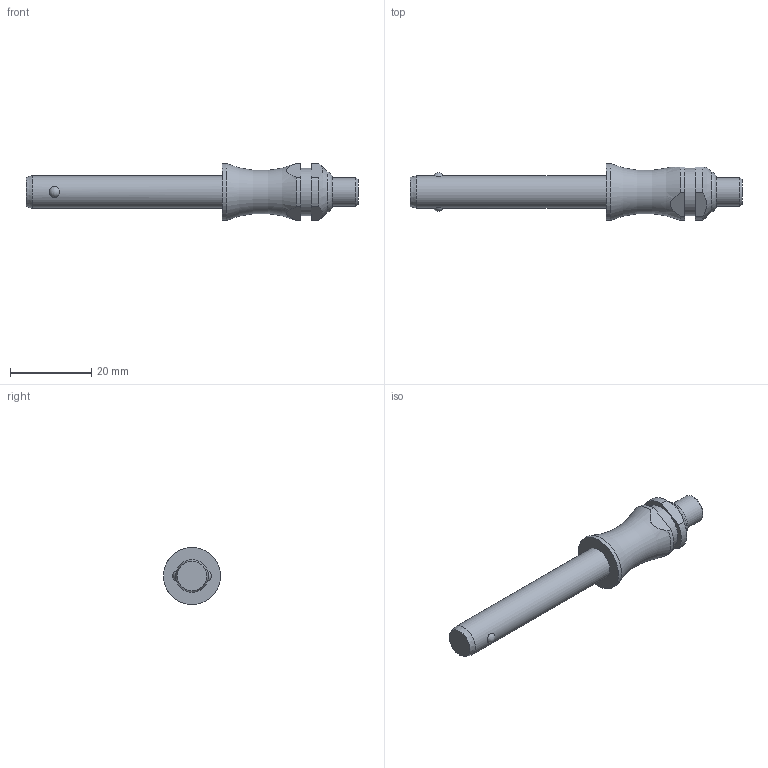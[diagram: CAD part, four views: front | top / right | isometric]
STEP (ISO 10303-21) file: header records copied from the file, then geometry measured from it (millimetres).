
FILE_DESCRIPTION( ( 'STEP AP203' ), '1' );
FILE_NAME( 'C:/Temp/Ganter_Step_05_03_2020/data/3_1/gn113_3/Stainless Steel-Ball lock pin GN 113.3-8-40 (deactivated).stp', '2020-03-12T08:18:25', ( 'License CC BY-ND 4.0' ), ( 'CADENAS' ), ' ', 'PARTsolutions', ' ' );
FILE_SCHEMA( ( 'CONFIG_CONTROL_DESIGN' ) );
Length unit declared in the file: millimetre
Products named in the file (1): _Stainless Steel-Ball lock pin GN 113.3-8-40 (deactivated)
Bounding box: 81.5 x 14 x 14 mm (x, y, z)
Volume: 5642.6 mm3; surface area: 2668.7 mm2
Topology: 1 solids, 1 shells, 28 faces, 60 edges, 39 vertices
Faces by surface type: plane 11, cylinder 10, cone 3, torus 2, sphere 2
Full cylindrical faces by diameter (mm): 7 x1, 8 x1, 11.6 x1, 14 x1
Entity records: 916 total; most frequent: CARTESIAN_POINT 303, DIRECTION 122, ORIENTED_EDGE 98, AXIS2_PLACEMENT_3D 52, EDGE_CURVE 49, EDGE_LOOP 42, VERTEX_POINT 37, FACE_OUTER_BOUND 34
